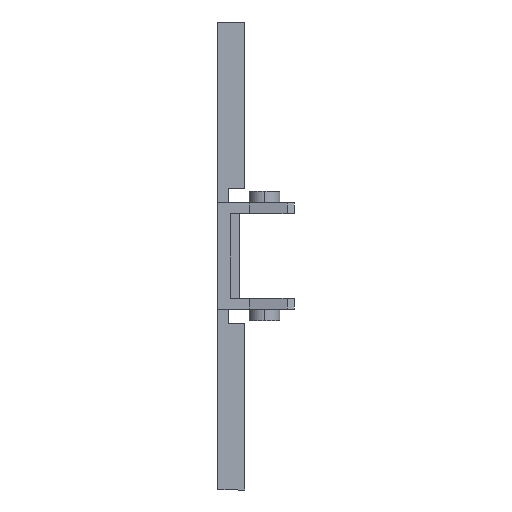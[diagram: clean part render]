
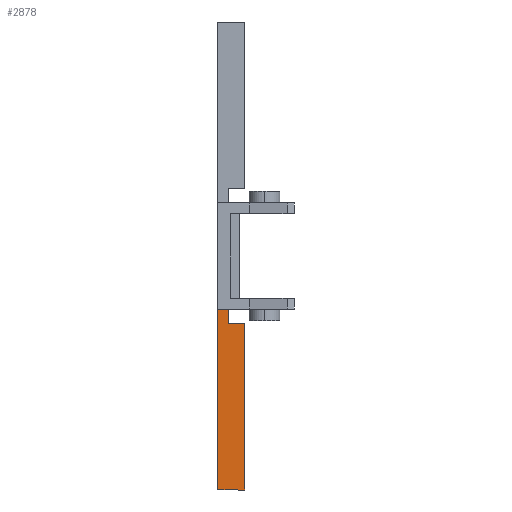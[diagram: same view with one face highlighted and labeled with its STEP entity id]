
A CAD part, front view. The second image highlights one B-rep face of the part: STEP entity #2878.
In plain terms, the highlighted planar face has unit normal (0, -1, 0).
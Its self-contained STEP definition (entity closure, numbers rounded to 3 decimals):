
#4 = EDGE_CURVE ( 'NONE', #1698, #1716, #1181, .T. ) ;
#30 = EDGE_CURVE ( 'NONE', #1698, #1715, #1536, .T. ) ;
#37 = EDGE_CURVE ( 'NONE', #1716, #1709, #1523, .T. ) ;
#303 = EDGE_CURVE ( 'NONE', #1701, #1681, #799, .T. ) ;
#329 = EDGE_CURVE ( 'NONE', #1709, #1701, #581, .T. ) ;
#355 = EDGE_CURVE ( 'NONE', #1681, #1715, #607, .T. ) ;
#372 = AXIS2_PLACEMENT_3D ( 'NONE', #2636, #2626, #2627 ) ;
#578 = VECTOR ( 'NONE', #2199, 1000. ) ;
#581 = LINE ( 'NONE', #2200, #578 ) ;
#607 = LINE ( 'NONE', #2326, #611 ) ;
#611 = VECTOR ( 'NONE', #2354, 1000. ) ;
#721 = VECTOR ( 'NONE', #2211, 1000. ) ;
#771 = FACE_OUTER_BOUND ( 'NONE', #1299, .T. ) ;
#799 = LINE ( 'NONE', #2210, #721 ) ;
#943 = ORIENTED_EDGE ( 'NONE', *, *, #4, .T. ) ;
#946 = ORIENTED_EDGE ( 'NONE', *, *, #30, .F. ) ;
#947 = ORIENTED_EDGE ( 'NONE', *, *, #37, .T. ) ;
#948 = ORIENTED_EDGE ( 'NONE', *, *, #355, .T. ) ;
#949 = ORIENTED_EDGE ( 'NONE', *, *, #303, .T. ) ;
#950 = ORIENTED_EDGE ( 'NONE', *, *, #329, .T. ) ;
#1181 = LINE ( 'NONE', #1575, #1503 ) ;
#1299 = EDGE_LOOP ( 'NONE', ( #946, #943, #947, #950, #949, #948 ) ) ;
#1490 = VECTOR ( 'NONE', #1872, 1000. ) ;
#1503 = VECTOR ( 'NONE', #1571, 1000. ) ;
#1523 = LINE ( 'NONE', #1869, #1490 ) ;
#1530 = VECTOR ( 'NONE', #1849, 1000. ) ;
#1536 = LINE ( 'NONE', #1855, #1530 ) ;
#1571 = DIRECTION ( 'NONE',  ( 0., 0., -1. ) ) ;
#1575 = CARTESIAN_POINT ( 'NONE',  ( 0., -9., -26. ) ) ;
#1681 = VERTEX_POINT ( 'NONE', #2347 ) ;
#1698 = VERTEX_POINT ( 'NONE', #2393 ) ;
#1701 = VERTEX_POINT ( 'NONE', #2396 ) ;
#1709 = VERTEX_POINT ( 'NONE', #2599 ) ;
#1715 = VERTEX_POINT ( 'NONE', #2596 ) ;
#1716 = VERTEX_POINT ( 'NONE', #2597 ) ;
#1849 = DIRECTION ( 'NONE',  ( 1., 0., 0. ) ) ;
#1855 = CARTESIAN_POINT ( 'NONE',  ( 1.2, -9., -5.9 ) ) ;
#1869 = CARTESIAN_POINT ( 'NONE',  ( 3., -9., -26. ) ) ;
#1872 = DIRECTION ( 'NONE',  ( 1., 0., 0. ) ) ;
#2199 = DIRECTION ( 'NONE',  ( 0., 0., 1. ) ) ;
#2200 = CARTESIAN_POINT ( 'NONE',  ( 3., -9., -7.5 ) ) ;
#2210 = CARTESIAN_POINT ( 'NONE',  ( 1.2, -9., -7.5 ) ) ;
#2211 = DIRECTION ( 'NONE',  ( -1., 0., 0. ) ) ;
#2326 = CARTESIAN_POINT ( 'NONE',  ( 1.2, -9., -5. ) ) ;
#2347 = CARTESIAN_POINT ( 'NONE',  ( 1.2, -9., -7.5 ) ) ;
#2354 = DIRECTION ( 'NONE',  ( 0., 0., 1. ) ) ;
#2393 = CARTESIAN_POINT ( 'NONE',  ( 0., -9., -5.9 ) ) ;
#2396 = CARTESIAN_POINT ( 'NONE',  ( 3., -9., -7.5 ) ) ;
#2596 = CARTESIAN_POINT ( 'NONE',  ( 1.2, -9., -5.9 ) ) ;
#2597 = CARTESIAN_POINT ( 'NONE',  ( 0., -9., -26. ) ) ;
#2599 = CARTESIAN_POINT ( 'NONE',  ( 3., -9., -26. ) ) ;
#2626 = DIRECTION ( 'NONE',  ( 0., 1., 0. ) ) ;
#2627 = DIRECTION ( 'NONE',  ( 0., 0., 1. ) ) ;
#2635 = PLANE ( 'NONE',  #372 ) ;
#2636 = CARTESIAN_POINT ( 'NONE',  ( 1.2, -9., -5. ) ) ;
#2878 = ADVANCED_FACE ( 'NONE', ( #771 ), #2635, .F. ) ;
